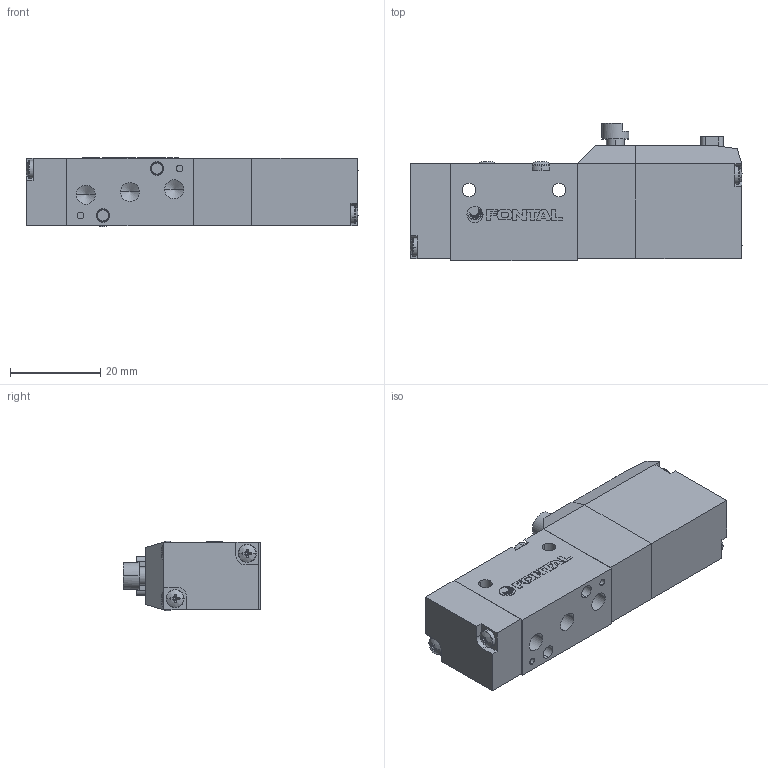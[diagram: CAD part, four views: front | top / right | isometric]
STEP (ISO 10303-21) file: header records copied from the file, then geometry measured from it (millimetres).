
FILE_DESCRIPTION (( 'STEP AP203' ), '1' );
FILE_NAME ('RCL245#-M5-#-L-#.STEP', '2016-02-04T05:21:15', ( 'Sam Lin' ), ( '' ), 'SwSTEP 2.0', 'SolidWorks 2013', '' );
FILE_SCHEMA (( 'CONFIG_CONTROL_DESIGN' ));
Length unit declared in the file: metre
Products named in the file (9): PC5-4; PC5-5-PCL･ﾎ; 手動鈕; RCL245#-M5-#-L-#; RCS-1; PC-MARK; PC5-2; ISO 7045 - M2 x 10; ISO 7045 - M2.5 x 25
Assembly tree (12 placements, depth 2):
  RCL245#-M5-#-L-#
    RCS-1
    PC-MARK
    PC5-2
    ISO 7045 - M2 x 10  x4
    ISO 7045 - M2.5 x 25  x2
    PC5-4
    PC5-5-PCL･ﾎ
    手動鈕
Bounding box: 73.64 x 30.5 x 15.4 mm (x, y, z)
Volume: 23930.1 mm3; surface area: 11274 mm2
Topology: 18 solids, 18 shells, 477 faces, 1172 edges, 726 vertices
Faces by surface type: plane 262, cylinder 99, cone 72, bspline 44
Entity records: 10445 total; most frequent: CARTESIAN_POINT 2144, ORIENTED_EDGE 1504, DIRECTION 1492, EDGE_CURVE 752, AXIS2_PLACEMENT_3D 522, VERTEX_POINT 486, VECTOR 448, LINE 448
